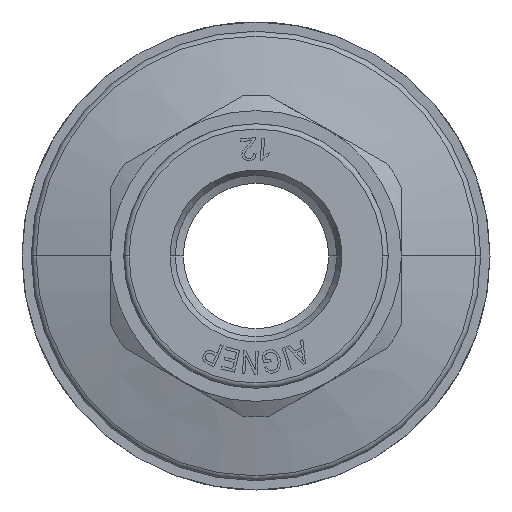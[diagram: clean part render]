
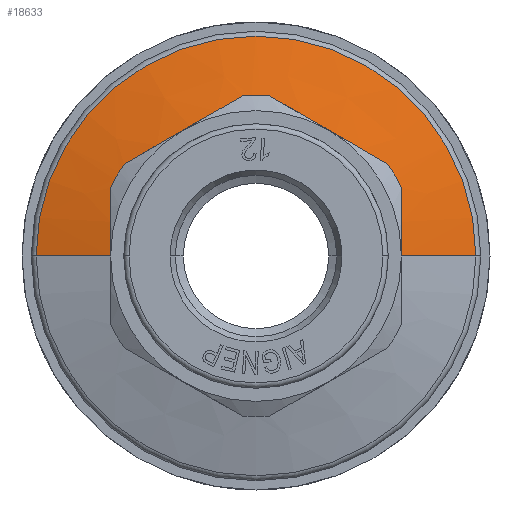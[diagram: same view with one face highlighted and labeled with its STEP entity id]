
A CAD part, front view. The second image highlights one B-rep face of the part: STEP entity #18633.
In plain terms, the highlighted conical face has half-angle 75 degrees and reference radius 11 mm.
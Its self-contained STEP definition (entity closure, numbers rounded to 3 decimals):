
#298 = EDGE_CURVE ( 'NONE', #14508, #9179, #8251, .T. ) ;
#488 = AXIS2_PLACEMENT_3D ( 'NONE', #665, #15758, #17136 ) ;
#508 = CARTESIAN_POINT ( 'NONE',  ( -8.479, 7.505, 7.806 ) ) ;
#665 = CARTESIAN_POINT ( 'NONE',  ( 0., 7.7, 0. ) ) ;
#992 = CARTESIAN_POINT ( 'NONE',  ( 11., 7.392, 0. ) ) ;
#1027 = EDGE_CURVE ( 'NONE', #4741, #4548, #18734, .T. ) ;
#1743 = AXIS2_PLACEMENT_3D ( 'NONE', #8190, #8289, #14344 ) ;
#1789 = EDGE_CURVE ( 'NONE', #9179, #11252, #8013, .T. ) ;
#2090 = B_SPLINE_CURVE_WITH_KNOTS ( 'NONE', 3,
 ( #8797, #14843, #5965, #18259, #13343, #17967 ),
 .UNSPECIFIED., .F., .F.,
 ( 4, 2, 4 ),
 ( 0.016, 0.018, 0.021 ),
 .UNSPECIFIED. ) ;
#2361 = ORIENTED_EDGE ( 'NONE', *, *, #10741, .T. ) ;
#2651 = VECTOR ( 'NONE', #9296, 1000. ) ;
#2744 = CARTESIAN_POINT ( 'NONE',  ( 1.032, 7.7, 12.106 ) ) ;
#3127 = VECTOR ( 'NONE', #6821, 1000. ) ;
#3273 = CARTESIAN_POINT ( 'NONE',  ( -9.968, 7.7, 6.946 ) ) ;
#3449 = CARTESIAN_POINT ( 'NONE',  ( 0., 7.7, 0. ) ) ;
#3493 = ORIENTED_EDGE ( 'NONE', *, *, #1789, .F. ) ;
#4548 = VERTEX_POINT ( 'NONE', #11614 ) ;
#4584 = CARTESIAN_POINT ( 'NONE',  ( -9.968, 7.7, 6.946 ) ) ;
#4741 = VERTEX_POINT ( 'NONE', #10164 ) ;
#4751 = EDGE_CURVE ( 'NONE', #16800, #5630, #16555, .T. ) ;
#4824 = CARTESIAN_POINT ( 'NONE',  ( 9.968, 7.7, 6.946 ) ) ;
#5400 = VERTEX_POINT ( 'NONE', #12120 ) ;
#5618 = EDGE_CURVE ( 'NONE', #5400, #14508, #15112, .T. ) ;
#5630 = VERTEX_POINT ( 'NONE', #4824 ) ;
#5661 = AXIS2_PLACEMENT_3D ( 'NONE', #3449, #18317, #10910 ) ;
#5965 = CARTESIAN_POINT ( 'NONE',  ( 11., 7.419, 1.714 ) ) ;
#5987 = CARTESIAN_POINT ( 'NONE',  ( -11., 7.392, 0. ) ) ;
#6077 = LINE ( 'NONE', #5987, #2651 ) ;
#6334 = CARTESIAN_POINT ( 'NONE',  ( -16.629, 8.901, 0. ) ) ;
#6821 = DIRECTION ( 'NONE',  ( 0.966, 0.259, 0. ) ) ;
#6950 = EDGE_CURVE ( 'NONE', #5630, #5400, #12650, .T. ) ;
#7093 = CARTESIAN_POINT ( 'NONE',  ( 0., 8.901, 0. ) ) ;
#7129 = VERTEX_POINT ( 'NONE', #13847 ) ;
#7219 = AXIS2_PLACEMENT_3D ( 'NONE', #7093, #13102, #9948 ) ;
#7512 = B_SPLINE_CURVE_WITH_KNOTS ( 'NONE', 3,
 ( #16444, #16741, #18189, #10976 ),
 .UNSPECIFIED., .F., .F.,
 ( 4, 4 ),
 ( 0.011, 0.016 ),
 .UNSPECIFIED. ) ;
#7542 = CIRCLE ( 'NONE', #7219, 16.629 ) ;
#7865 = EDGE_CURVE ( 'NONE', #11252, #7129, #7512, .T. ) ;
#8013 = CIRCLE ( 'NONE', #488, 12.15 ) ;
#8190 = CARTESIAN_POINT ( 'NONE',  ( 0., 7.392, 0. ) ) ;
#8251 = B_SPLINE_CURVE_WITH_KNOTS ( 'NONE', 3,
 ( #13619, #10929, #13914, #508, #3273 ),
 .UNSPECIFIED., .F., .F.,
 ( 4, 1, 4 ),
 ( 0., 0.005, 0.01 ),
 .UNSPECIFIED. ) ;
#8289 = DIRECTION ( 'NONE',  ( 0., 1., 0. ) ) ;
#8797 = CARTESIAN_POINT ( 'NONE',  ( 11., 7.392, 0. ) ) ;
#8823 = VERTEX_POINT ( 'NONE', #6334 ) ;
#8828 = CARTESIAN_POINT ( 'NONE',  ( 2.521, 7.505, 11.246 ) ) ;
#8998 = CARTESIAN_POINT ( 'NONE',  ( 11., 7.7, 5.16 ) ) ;
#9179 = VERTEX_POINT ( 'NONE', #4584 ) ;
#9296 = DIRECTION ( 'NONE',  ( -0.966, 0.259, 0. ) ) ;
#9435 = CARTESIAN_POINT ( 'NONE',  ( 8.479, 7.505, 7.806 ) ) ;
#9443 = ORIENTED_EDGE ( 'NONE', *, *, #6950, .F. ) ;
#9687 = FACE_OUTER_BOUND ( 'NONE', #18771, .T. ) ;
#9691 = EDGE_CURVE ( 'NONE', #4741, #16800, #2090, .T. ) ;
#9948 = DIRECTION ( 'NONE',  ( 1., 0., 0. ) ) ;
#10099 = CARTESIAN_POINT ( 'NONE',  ( 5.5, 7.28, 9.526 ) ) ;
#10164 = CARTESIAN_POINT ( 'NONE',  ( 11., 7.392, 0. ) ) ;
#10213 = CONICAL_SURFACE ( 'NONE', #1743, 11., 1.309 ) ;
#10733 = ORIENTED_EDGE ( 'NONE', *, *, #5618, .F. ) ;
#10741 = EDGE_CURVE ( 'NONE', #4548, #8823, #7542, .T. ) ;
#10841 = AXIS2_PLACEMENT_3D ( 'NONE', #12753, #19073, #12942 ) ;
#10910 = DIRECTION ( 'NONE',  ( -1., 0., 0. ) ) ;
#10929 = CARTESIAN_POINT ( 'NONE',  ( -2.521, 7.505, 11.246 ) ) ;
#10976 = CARTESIAN_POINT ( 'NONE',  ( -11., 7.392, 0. ) ) ;
#11252 = VERTEX_POINT ( 'NONE', #12655 ) ;
#11287 = ORIENTED_EDGE ( 'NONE', *, *, #18001, .F. ) ;
#11614 = CARTESIAN_POINT ( 'NONE',  ( 16.629, 8.901, 0. ) ) ;
#11717 = ORIENTED_EDGE ( 'NONE', *, *, #298, .F. ) ;
#12120 = CARTESIAN_POINT ( 'NONE',  ( 1.032, 7.7, 12.106 ) ) ;
#12650 = B_SPLINE_CURVE_WITH_KNOTS ( 'NONE', 3,
 ( #14282, #9435, #10099, #8828, #2744 ),
 .UNSPECIFIED., .F., .F.,
 ( 4, 1, 4 ),
 ( 0., 0.005, 0.01 ),
 .UNSPECIFIED. ) ;
#12655 = CARTESIAN_POINT ( 'NONE',  ( -11., 7.7, 5.16 ) ) ;
#12753 = CARTESIAN_POINT ( 'NONE',  ( 0., 7.7, 0. ) ) ;
#12942 = DIRECTION ( 'NONE',  ( -1., 0., 0. ) ) ;
#13102 = DIRECTION ( 'NONE',  ( 0., -1., 0. ) ) ;
#13176 = ORIENTED_EDGE ( 'NONE', *, *, #7865, .F. ) ;
#13343 = CARTESIAN_POINT ( 'NONE',  ( 11., 7.603, 4.3 ) ) ;
#13619 = CARTESIAN_POINT ( 'NONE',  ( -1.032, 7.7, 12.106 ) ) ;
#13847 = CARTESIAN_POINT ( 'NONE',  ( -11., 7.392, 0. ) ) ;
#13914 = CARTESIAN_POINT ( 'NONE',  ( -5.5, 7.28, 9.526 ) ) ;
#14282 = CARTESIAN_POINT ( 'NONE',  ( 9.968, 7.7, 6.946 ) ) ;
#14344 = DIRECTION ( 'NONE',  ( -1., 0., 0. ) ) ;
#14508 = VERTEX_POINT ( 'NONE', #17881 ) ;
#14582 = ORIENTED_EDGE ( 'NONE', *, *, #9691, .F. ) ;
#14843 = CARTESIAN_POINT ( 'NONE',  ( 11., 7.392, 0.855 ) ) ;
#15112 = CIRCLE ( 'NONE', #5661, 12.15 ) ;
#15758 = DIRECTION ( 'NONE',  ( 0., -1., 0. ) ) ;
#16444 = CARTESIAN_POINT ( 'NONE',  ( -11., 7.7, 5.16 ) ) ;
#16555 = CIRCLE ( 'NONE', #10841, 12.15 ) ;
#16741 = CARTESIAN_POINT ( 'NONE',  ( -11., 7.506, 3.449 ) ) ;
#16800 = VERTEX_POINT ( 'NONE', #8998 ) ;
#16872 = ORIENTED_EDGE ( 'NONE', *, *, #1027, .T. ) ;
#17136 = DIRECTION ( 'NONE',  ( -1., 0., 0. ) ) ;
#17881 = CARTESIAN_POINT ( 'NONE',  ( -1.032, 7.7, 12.106 ) ) ;
#17967 = CARTESIAN_POINT ( 'NONE',  ( 11., 7.7, 5.16 ) ) ;
#18001 = EDGE_CURVE ( 'NONE', #7129, #8823, #6077, .T. ) ;
#18167 = ORIENTED_EDGE ( 'NONE', *, *, #4751, .F. ) ;
#18189 = CARTESIAN_POINT ( 'NONE',  ( -11., 7.392, 1.73 ) ) ;
#18259 = CARTESIAN_POINT ( 'NONE',  ( 11., 7.525, 3.435 ) ) ;
#18317 = DIRECTION ( 'NONE',  ( 0., -1., 0. ) ) ;
#18633 = ADVANCED_FACE ( 'NONE', ( #9687 ), #10213, .T. ) ;
#18734 = LINE ( 'NONE', #992, #3127 ) ;
#18771 = EDGE_LOOP ( 'NONE', ( #14582, #16872, #2361, #11287, #13176, #3493, #11717, #10733, #9443, #18167 ) ) ;
#19073 = DIRECTION ( 'NONE',  ( 0., -1., 0. ) ) ;
